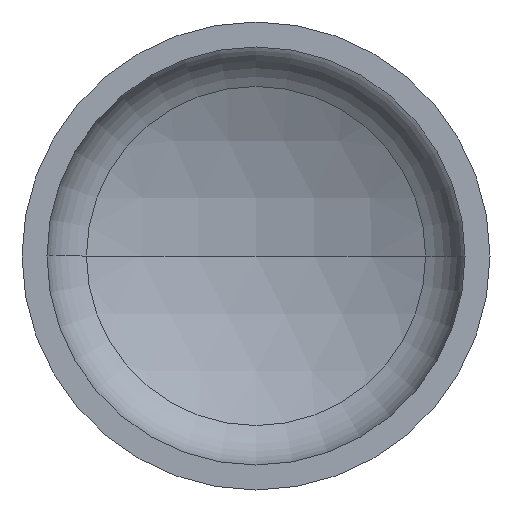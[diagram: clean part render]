
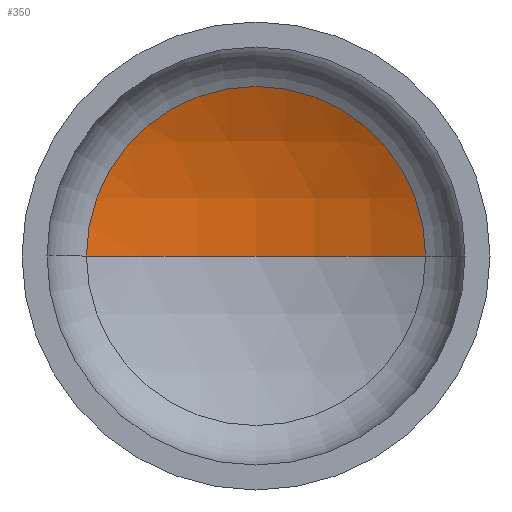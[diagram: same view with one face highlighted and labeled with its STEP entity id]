
A CAD part, front view. The second image highlights one B-rep face of the part: STEP entity #350.
In plain terms, the highlighted spherical face has radius 960 mm.
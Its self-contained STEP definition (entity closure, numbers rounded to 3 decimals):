
#7 = AXIS2_PLACEMENT_3D ( 'NONE', #335, #265, #257 ) ;
#11 = ORIENTED_EDGE ( 'NONE', *, *, #223, .T. ) ;
#22 = AXIS2_PLACEMENT_3D ( 'NONE', #392, #390, #388 ) ;
#27 = AXIS2_PLACEMENT_3D ( 'NONE', #62, #58, #184 ) ;
#30 = AXIS2_PLACEMENT_3D ( 'NONE', #239, #235, #175 ) ;
#32 = CARTESIAN_POINT ( 'NONE',  ( 0., 389.041, 0. ) ) ;
#33 = EDGE_LOOP ( 'NONE', ( #78, #11, #124 ) ) ;
#43 = FACE_OUTER_BOUND ( 'NONE', #33, .T. ) ;
#50 = VERTEX_POINT ( 'NONE', #227 ) ;
#58 = DIRECTION ( 'NONE',  ( 0., 0., -1. ) ) ;
#62 = CARTESIAN_POINT ( 'NONE',  ( 0., -570.959, 0. ) ) ;
#78 = ORIENTED_EDGE ( 'NONE', *, *, #242, .F. ) ;
#94 = CIRCLE ( 'NONE', #22, 960. ) ;
#124 = ORIENTED_EDGE ( 'NONE', *, *, #200, .T. ) ;
#146 = VERTEX_POINT ( 'NONE', #310 ) ;
#175 = DIRECTION ( 'NONE',  ( 1., 0., 0. ) ) ;
#180 = VERTEX_POINT ( 'NONE', #32 ) ;
#184 = DIRECTION ( 'NONE',  ( -1., 0., 0. ) ) ;
#199 = CIRCLE ( 'NONE', #27, 960. ) ;
#200 = EDGE_CURVE ( 'NONE', #50, #146, #381, .T. ) ;
#223 = EDGE_CURVE ( 'NONE', #180, #50, #199, .T. ) ;
#227 = CARTESIAN_POINT ( 'NONE',  ( 434.787, 284.939, 0. ) ) ;
#235 = DIRECTION ( 'NONE',  ( 0., -1., 0. ) ) ;
#239 = CARTESIAN_POINT ( 'NONE',  ( 0., 284.939, 0. ) ) ;
#242 = EDGE_CURVE ( 'NONE', #180, #146, #94, .T. ) ;
#257 = DIRECTION ( 'NONE',  ( -1., 0., 0. ) ) ;
#265 = DIRECTION ( 'NONE',  ( 0., 0., -1. ) ) ;
#304 = SPHERICAL_SURFACE ( 'NONE', #7, 960. ) ;
#310 = CARTESIAN_POINT ( 'NONE',  ( -434.787, 284.939, 0. ) ) ;
#335 = CARTESIAN_POINT ( 'NONE',  ( 0., -570.959, 0. ) ) ;
#350 = ADVANCED_FACE ( 'NONE', ( #43 ), #304, .F. ) ;
#381 = CIRCLE ( 'NONE', #30, 434.787 ) ;
#388 = DIRECTION ( 'NONE',  ( 1., 0., 0. ) ) ;
#390 = DIRECTION ( 'NONE',  ( 0., 0., 1. ) ) ;
#392 = CARTESIAN_POINT ( 'NONE',  ( 0., -570.959, 0. ) ) ;
